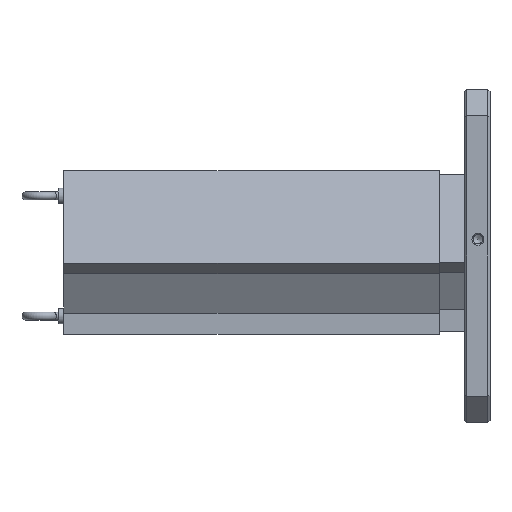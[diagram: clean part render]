
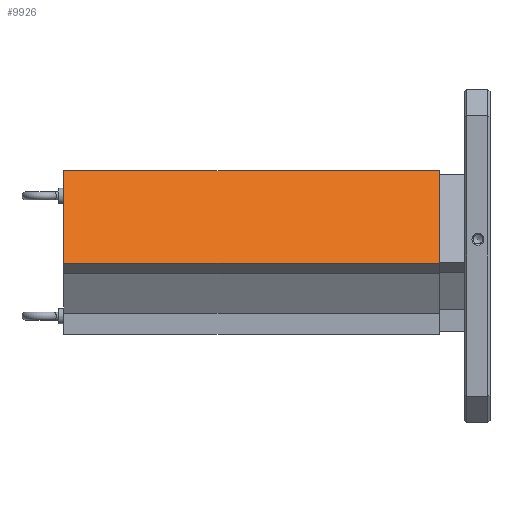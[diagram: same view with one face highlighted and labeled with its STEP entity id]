
A CAD part, left-side view. The second image highlights one B-rep face of the part: STEP entity #9926.
In plain terms, the highlighted planar face has unit normal (-0.866, 0, 0.5).
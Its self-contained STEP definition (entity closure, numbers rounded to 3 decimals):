
#415 = DIRECTION ( 'NONE',  ( 0.5, 0., 0.866 ) ) ;
#2226 = DIRECTION ( 'NONE',  ( -0.5, 0., -0.866 ) ) ;
#2241 = VECTOR ( 'NONE', #2370, 1000. ) ;
#2370 = DIRECTION ( 'NONE',  ( 0., -1., 0. ) ) ;
#3179 = EDGE_LOOP ( 'NONE', ( #27487, #24268, #18724, #26867 ) ) ;
#5122 = DIRECTION ( 'NONE',  ( -0.866, 0., 0.5 ) ) ;
#6288 = VERTEX_POINT ( 'NONE', #14123 ) ;
#7928 = EDGE_CURVE ( 'NONE', #29211, #21328, #22864, .T. ) ;
#8988 = EDGE_CURVE ( 'NONE', #21328, #10237, #29237, .T. ) ;
#9922 = CARTESIAN_POINT ( 'NONE',  ( -61.44, 600., 127.567 ) ) ;
#9926 = ADVANCED_FACE ( 'NONE', ( #12745 ), #22515, .T. ) ;
#9988 = AXIS2_PLACEMENT_3D ( 'NONE', #27230, #5122, #415 ) ;
#10237 = VERTEX_POINT ( 'NONE', #13232 ) ;
#12186 = DIRECTION ( 'NONE',  ( -0.5, 0., -0.866 ) ) ;
#12745 = FACE_OUTER_BOUND ( 'NONE', #3179, .T. ) ;
#13232 = CARTESIAN_POINT ( 'NONE',  ( -141.196, 38.1, -10.575 ) ) ;
#13541 = VECTOR ( 'NONE', #12186, 1000. ) ;
#14123 = CARTESIAN_POINT ( 'NONE',  ( -141.196, 600., -10.575 ) ) ;
#15369 = LINE ( 'NONE', #30032, #2241 ) ;
#16980 = EDGE_CURVE ( 'NONE', #29211, #6288, #32045, .T. ) ;
#17080 = CARTESIAN_POINT ( 'NONE',  ( -61.44, 38.1, 127.567 ) ) ;
#17736 = VECTOR ( 'NONE', #28224, 1000. ) ;
#18724 = ORIENTED_EDGE ( 'NONE', *, *, #24600, .T. ) ;
#21328 = VERTEX_POINT ( 'NONE', #17080 ) ;
#22515 = PLANE ( 'NONE',  #9988 ) ;
#22864 = LINE ( 'NONE', #25771, #17736 ) ;
#23859 = CARTESIAN_POINT ( 'NONE',  ( -61.44, 38.1, 127.567 ) ) ;
#23974 = VECTOR ( 'NONE', #2226, 1000. ) ;
#24268 = ORIENTED_EDGE ( 'NONE', *, *, #16980, .T. ) ;
#24600 = EDGE_CURVE ( 'NONE', #6288, #10237, #15369, .T. ) ;
#24949 = CARTESIAN_POINT ( 'NONE',  ( -61.44, 600., 127.567 ) ) ;
#25771 = CARTESIAN_POINT ( 'NONE',  ( -61.44, 791.126, 127.567 ) ) ;
#26867 = ORIENTED_EDGE ( 'NONE', *, *, #8988, .F. ) ;
#27230 = CARTESIAN_POINT ( 'NONE',  ( -61.44, 791.126, 127.567 ) ) ;
#27487 = ORIENTED_EDGE ( 'NONE', *, *, #7928, .F. ) ;
#28224 = DIRECTION ( 'NONE',  ( 0., -1., 0. ) ) ;
#29211 = VERTEX_POINT ( 'NONE', #24949 ) ;
#29237 = LINE ( 'NONE', #23859, #23974 ) ;
#30032 = CARTESIAN_POINT ( 'NONE',  ( -141.196, 791.126, -10.575 ) ) ;
#32045 = LINE ( 'NONE', #9922, #13541 ) ;
